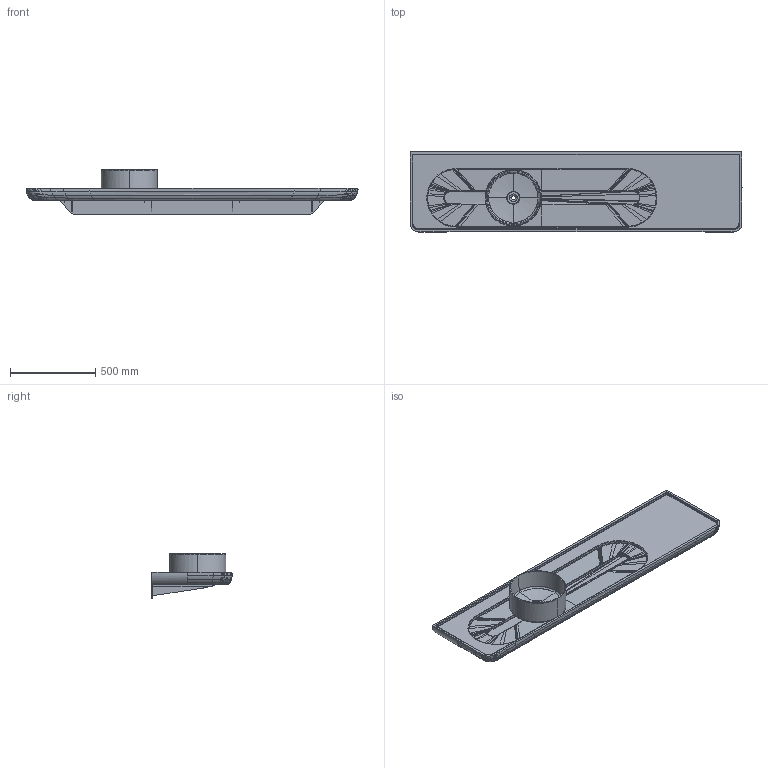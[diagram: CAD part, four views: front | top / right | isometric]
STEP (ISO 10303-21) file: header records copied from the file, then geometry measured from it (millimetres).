
FILE_DESCRIPTION(/* description */ (''),/* implementation_level */ '2;1');
FILE_NAME(/* name */ 'MEDITE~1',/* time_stamp */ '2023-12-10T18:05:41+01:00',/* author */ (''),/* organization */ (''),/* preprocessor_version */ 'ST-DEVELOPER v16.5',/* originating_system */ '',/* authorisation */ '');
FILE_SCHEMA (('CONFIG_CONTROL_DESIGN'));
Length unit declared in the file: millimetre
Products named in the file (1): Document
Bounding box: 1945.03 x 469.83 x 261.02 mm (x, y, z)
Volume: 4172433.2 mm3; surface area: 3520780.6 mm2
Topology: 10 solids, 13 shells, 1543 faces, 3741 edges, 2172 vertices
Faces by surface type: bspline 1104, cylinder 269, plane 170
Entity records: 135012 total; most frequent: CARTESIAN_POINT 112394, ORIENTED_EDGE 7359, EDGE_CURVE 3688, B_SPLINE_CURVE_WITH_KNOTS 2479, VERTEX_POINT 2172, EDGE_LOOP 1584, ADVANCED_FACE 1543, FACE_OUTER_BOUND 1543
